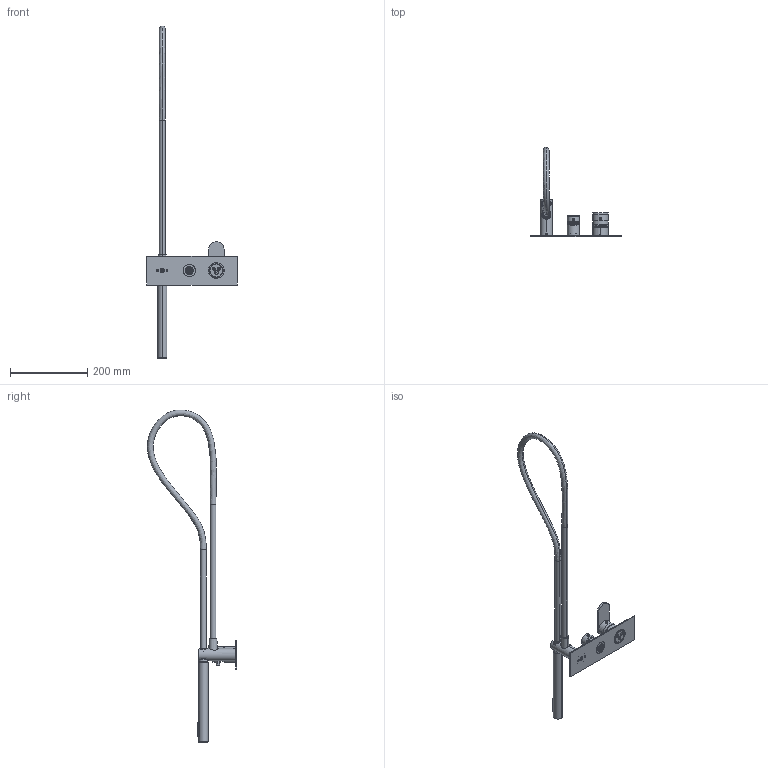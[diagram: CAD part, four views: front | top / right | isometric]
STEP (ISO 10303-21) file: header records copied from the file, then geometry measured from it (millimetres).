
FILE_DESCRIPTION((''),'2;1');
FILE_NAME('79529V221_SW0001','2026-10-05T16:54:45',('carloff'),(''),'CREO PARAMETRIC BY PTC INC, 2025443','CREO PARAMETRIC BY PTC INC, 2025443','');
FILE_SCHEMA(('CONFIG_CONTROL_DESIGN'));
Length unit declared in the file: millimetre
Products named in the file (1): 79529V221_SW0001
Bounding box: 235 x 230.87 x 858.75 mm (x, y, z)
Volume: 524621 mm3; surface area: 196968.3 mm2
Topology: 6 solids, 6 shells, 1642 faces, 4278 edges, 2731 vertices
Faces by surface type: cylinder 675, plane 540, torus 221, cone 141, bspline 61, sphere 4
Entity records: 93065 total; most frequent: CARTESIAN_POINT 52990, ORIENTED_EDGE 8536, DIRECTION 8271, EDGE_CURVE 4268, AXIS2_PLACEMENT_3D 3272, VERTEX_POINT 2731, EDGE_LOOP 1833, VECTOR 1727
